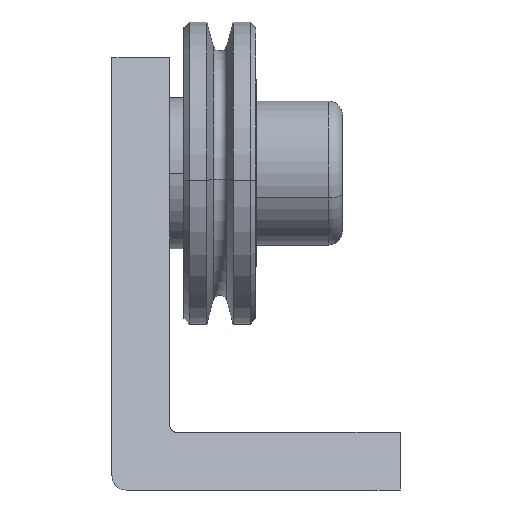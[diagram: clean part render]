
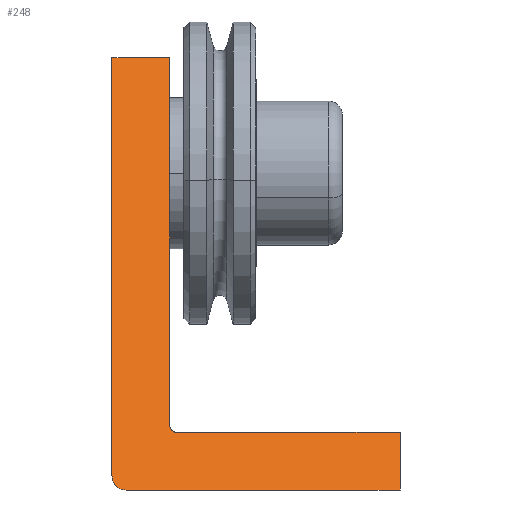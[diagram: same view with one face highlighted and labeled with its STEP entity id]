
A CAD part, left-side view. The second image highlights one B-rep face of the part: STEP entity #248.
In plain terms, the highlighted planar face has unit normal (-0.866, 0, 0.5).
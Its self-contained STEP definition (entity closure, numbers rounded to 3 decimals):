
#2=DIRECTION('',(0.,-1.,0.));
#3=VECTOR('',#2,4.);
#4=CARTESIAN_POINT('',(17.321,0.,30.));
#5=LINE('',#4,#3);
#14=CARTESIAN_POINT('',(0.577,0.,1.));
#15=CARTESIAN_POINT('',(0.488,0.,0.844));
#16=CARTESIAN_POINT('',(0.341,-0.065,
0.59));
#17=CARTESIAN_POINT('',(0.17,-0.262,
0.294));
#18=CARTESIAN_POINT('',(0.047,-0.554,
0.081));
#19=CARTESIAN_POINT('',(0.,-0.82,0.));
#20=CARTESIAN_POINT('',(0.,-1.,0.));
#36=DIRECTION('',(-0.5,0.,-0.866));
#37=VECTOR('',#36,29.445);
#38=CARTESIAN_POINT('',(17.321,-4.,30.));
#39=LINE('',#38,#37);
#66=DIRECTION('',(-0.5,0.,-0.866));
#67=VECTOR('',#66,33.486);
#68=CARTESIAN_POINT('',(17.321,0.,30.));
#69=LINE('',#68,#67);
#92=DIRECTION('',(0.,1.,0.));
#93=VECTOR('',#92,19.);
#94=CARTESIAN_POINT('',(0.,-20.,0.));
#95=LINE('',#94,#93);
#130=DIRECTION('',(0.,-1.,0.));
#131=VECTOR('',#130,15.5);
#132=CARTESIAN_POINT('',(2.309,-4.5,4.));
#133=LINE('',#132,#131);
#134=CARTESIAN_POINT('',(2.309,-4.5,4.));
#135=CARTESIAN_POINT('',(2.309,-4.41,4.));
#136=CARTESIAN_POINT('',(2.333,-4.277,4.04));
#137=CARTESIAN_POINT('',(2.416,-4.084,4.184));
#138=CARTESIAN_POINT('',(2.508,-4.,4.344));
#139=CARTESIAN_POINT('',(2.598,-4.,4.5));
#156=DIRECTION('',(-0.5,0.,-0.866));
#157=VECTOR('',#156,4.619);
#158=CARTESIAN_POINT('',(2.309,-20.,4.));
#159=LINE('',#158,#157);
#184=VERTEX_POINT('',#134);
#185=VERTEX_POINT('',#139);
#188=CARTESIAN_POINT('',(2.309,-20.,4.));
#189=CARTESIAN_POINT('',(0.,-20.,0.));
#190=VERTEX_POINT('',#188);
#191=VERTEX_POINT('',#189);
#192=CARTESIAN_POINT('',(17.321,0.,30.));
#193=CARTESIAN_POINT('',(17.321,-4.,30.));
#194=VERTEX_POINT('',#192);
#195=VERTEX_POINT('',#193);
#204=VERTEX_POINT('',#14);
#205=VERTEX_POINT('',#20);
#226=CARTESIAN_POINT('',(0.,0.,0.));
#227=DIRECTION('',(0.866,0.,-0.5));
#228=DIRECTION('',(0.5,0.,0.866));
#229=AXIS2_PLACEMENT_3D('',#226,#227,#228);
#230=PLANE('',#229);
#232=ORIENTED_EDGE('',*,*,#231,.T.);
#234=ORIENTED_EDGE('',*,*,#233,.F.);
#236=ORIENTED_EDGE('',*,*,#235,.T.);
#238=ORIENTED_EDGE('',*,*,#237,.T.);
#240=ORIENTED_EDGE('',*,*,#239,.T.);
#242=ORIENTED_EDGE('',*,*,#241,.F.);
#244=ORIENTED_EDGE('',*,*,#243,.F.);
#245=ORIENTED_EDGE('',*,*,#215,.T.);
#246=EDGE_LOOP('',(#232,#234,#236,#238,#240,#242,#244,#245));
#247=FACE_OUTER_BOUND('',#246,.F.);
#248=ADVANCED_FACE('',(#247),#230,.F.);
#21=B_SPLINE_CURVE_WITH_KNOTS('',3,(#14,#15,#16,#17,#18,#19,#20),.UNSPECIFIED.,
.F.,.F.,(4,1,1,1,4),(0.,0.25,0.5,0.75,1.),.UNSPECIFIED.);
#140=B_SPLINE_CURVE_WITH_KNOTS('',3,(#134,#135,#136,#137,#138,#139),
.UNSPECIFIED.,.F.,.F.,(4,1,1,4),(0.,0.25,0.5,1.),.UNSPECIFIED.);
#215=EDGE_CURVE('',#194,#195,#5,.T.);
#231=EDGE_CURVE('',#195,#185,#39,.T.);
#233=EDGE_CURVE('',#184,#185,#140,.T.);
#235=EDGE_CURVE('',#184,#190,#133,.T.);
#237=EDGE_CURVE('',#190,#191,#159,.T.);
#239=EDGE_CURVE('',#191,#205,#95,.T.);
#241=EDGE_CURVE('',#204,#205,#21,.T.);
#243=EDGE_CURVE('',#194,#204,#69,.T.);
